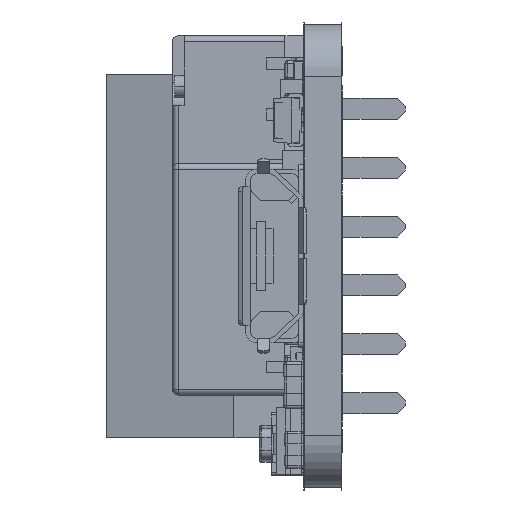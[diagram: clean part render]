
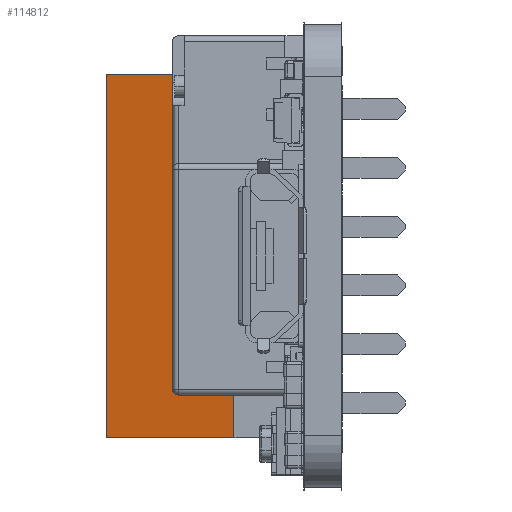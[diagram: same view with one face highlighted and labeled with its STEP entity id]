
A CAD part, left-side view. The second image highlights one B-rep face of the part: STEP entity #114812.
In plain terms, the highlighted planar face has unit normal (-0.977, 0.213, 0) as drawn and (0.977, 0.213, 0) by its records, which use the part's own axes.
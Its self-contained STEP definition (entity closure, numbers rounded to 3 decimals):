
#43092 = AXIS2_PLACEMENT_3D ( 'NONE', #60780, #60783, #60786 ) ;
#60777 = PLANE ( 'NONE',  #43092 ) ;
#60780 = CARTESIAN_POINT ( 'NONE',  ( 3.1, 3., 5.08 ) ) ;
#60783 = DIRECTION ( 'NONE',  ( 0.977, 0.213, 0. ) ) ;
#60786 = DIRECTION ( 'NONE',  ( -0.213, 0.977, 0. ) ) ;
#62931 = CARTESIAN_POINT ( 'NONE',  ( 3.1, 3., -7.85 ) ) ;
#62932 = CARTESIAN_POINT ( 'NONE',  ( 3.1, 3., 7.85 ) ) ;
#62942 = CARTESIAN_POINT ( 'NONE',  ( 1.9, 8.5, 7.85 ) ) ;
#62944 = CARTESIAN_POINT ( 'NONE',  ( 1.9, 8.5, -7.85 ) ) ;
#63457 = FACE_OUTER_BOUND ( 'NONE', #128433, .T. ) ;
#112444 = VERTEX_POINT ( 'NONE', #62931 ) ;
#112446 = VERTEX_POINT ( 'NONE', #62932 ) ;
#112455 = VERTEX_POINT ( 'NONE', #62942 ) ;
#112456 = VERTEX_POINT ( 'NONE', #62944 ) ;
#114812 = ADVANCED_FACE ( 'NONE', ( #63457 ), #60777, .T. ) ;
#121364 = EDGE_CURVE ( 'NONE', #112444, #112446, #127937, .T. ) ;
#121380 = EDGE_CURVE ( 'NONE', #112456, #112455, #127964, .T. ) ;
#121382 = EDGE_CURVE ( 'NONE', #112446, #112455, #127968, .T. ) ;
#121383 = EDGE_CURVE ( 'NONE', #112456, #112444, #127970, .T. ) ;
#127937 = LINE ( 'NONE', #132246, #127939 ) ;
#127939 = VECTOR ( 'NONE', #132248, 1000. ) ;
#127964 = LINE ( 'NONE', #132323, #127965 ) ;
#127965 = VECTOR ( 'NONE', #132324, 1000. ) ;
#127968 = LINE ( 'NONE', #132331, #127969 ) ;
#127969 = VECTOR ( 'NONE', #132333, 1000. ) ;
#127970 = LINE ( 'NONE', #132335, #127971 ) ;
#127971 = VECTOR ( 'NONE', #132337, 1000. ) ;
#128433 = EDGE_LOOP ( 'NONE', ( #129894, #129895, #129896, #129897 ) ) ;
#129894 = ORIENTED_EDGE ( 'NONE', *, *, #121380, .T. ) ;
#129895 = ORIENTED_EDGE ( 'NONE', *, *, #121382, .F. ) ;
#129896 = ORIENTED_EDGE ( 'NONE', *, *, #121364, .F. ) ;
#129897 = ORIENTED_EDGE ( 'NONE', *, *, #121383, .F. ) ;
#132246 = CARTESIAN_POINT ( 'NONE',  ( 3.1, 3., 5.08 ) ) ;
#132248 = DIRECTION ( 'NONE',  ( 0., 0., 1. ) ) ;
#132323 = CARTESIAN_POINT ( 'NONE',  ( 1.9, 8.5, 5.08 ) ) ;
#132324 = DIRECTION ( 'NONE',  ( 0., 0., 1. ) ) ;
#132331 = CARTESIAN_POINT ( 'NONE',  ( 3.1, 3., 7.85 ) ) ;
#132333 = DIRECTION ( 'NONE',  ( -0.213, 0.977, 0. ) ) ;
#132335 = CARTESIAN_POINT ( 'NONE',  ( 1.9, 8.5, -7.85 ) ) ;
#132337 = DIRECTION ( 'NONE',  ( 0.213, -0.977, 0. ) ) ;
